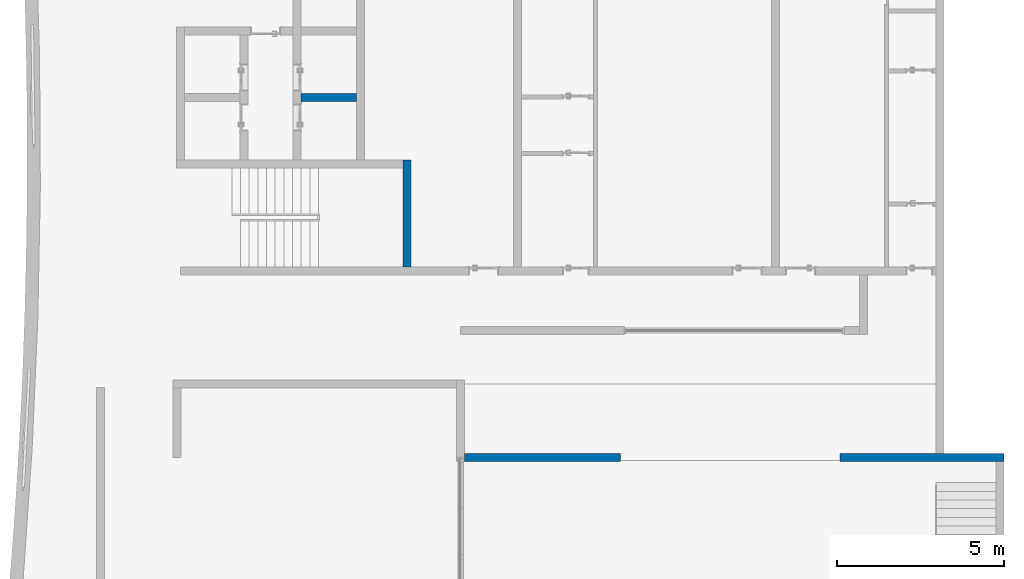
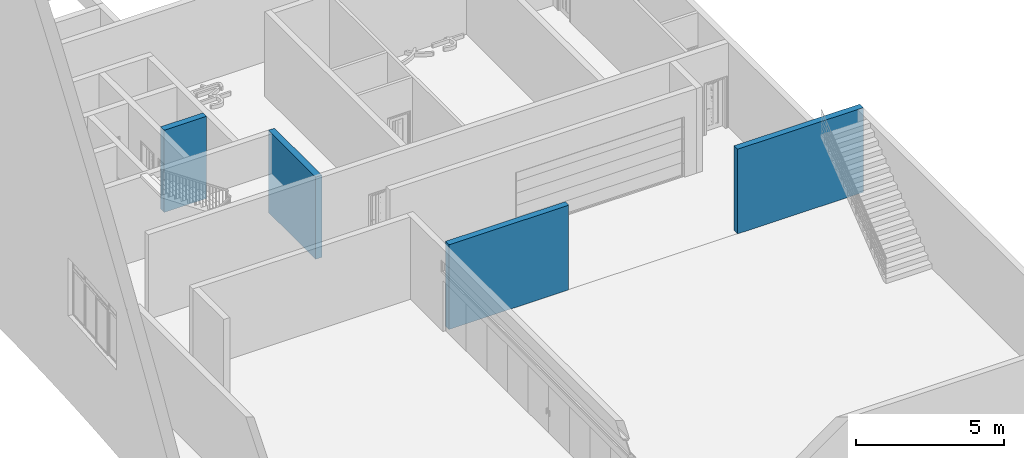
# One storey, part 7 of 24: 4 walls.
"""IFC2X3 building model written with IfcOpenShell, lengths in millimetres."""

from ifc_helpers import new_model, entity, si_unit, converted_unit, derived_unit, direction, frame, frame_2d, origin, place, context, subcontext, project, spatial, polyline, rectangle, extrude, clip, bounded_halfspace, material, layer, layer_set, layer_usage, type_object, element, save


model = new_model("IFC2X3")

# Units and contexts
model_context = context("Model", 3, precision=0.01, world=origin(), true_north=direction((6.12303176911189e-17, 1.0)))
body_context = subcontext(model_context, "Body", "Model", "MODEL_VIEW")
ifc_project = project(units=[si_unit("LENGTHUNIT", "METRE", prefix="MILLI"), si_unit("AREAUNIT", "SQUARE_METRE"), si_unit("VOLUMEUNIT", "CUBIC_METRE"), converted_unit("PLANEANGLEUNIT", "DEGREE", entity("IfcRatioMeasure", 0.0174532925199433), si_unit("PLANEANGLEUNIT", "RADIAN"), dimensions=[0, 0, 0, 0, 0, 0, 0]), si_unit("MASSUNIT", "GRAM", prefix="KILO"), derived_unit("MASSDENSITYUNIT", [(si_unit("MASSUNIT", "GRAM", prefix="KILO"), 1), (si_unit("LENGTHUNIT", "METRE"), -3)]), si_unit("TIMEUNIT", "SECOND"), si_unit("FREQUENCYUNIT", "HERTZ"), si_unit("THERMODYNAMICTEMPERATUREUNIT", "DEGREE_CELSIUS"), derived_unit("THERMALTRANSMITTANCEUNIT", [(si_unit("MASSUNIT", "GRAM", prefix="KILO"), 1), (si_unit("THERMODYNAMICTEMPERATUREUNIT", "KELVIN"), -1), (si_unit("TIMEUNIT", "SECOND"), -3)]), derived_unit("VOLUMETRICFLOWRATEUNIT", [(si_unit("LENGTHUNIT", "METRE"), 3), (si_unit("TIMEUNIT", "SECOND"), -1)]), si_unit("ELECTRICCURRENTUNIT", "AMPERE"), si_unit("ELECTRICVOLTAGEUNIT", "VOLT"), si_unit("POWERUNIT", "WATT"), si_unit("FORCEUNIT", "NEWTON", prefix="KILO"), si_unit("ILLUMINANCEUNIT", "LUX"), si_unit("LUMINOUSFLUXUNIT", "LUMEN"), si_unit("LUMINOUSINTENSITYUNIT", "CANDELA"), derived_unit("USERDEFINED", [(si_unit("MASSUNIT", "GRAM", prefix="KILO"), -1), (si_unit("LENGTHUNIT", "METRE"), -2), (si_unit("TIMEUNIT", "SECOND"), 3), (si_unit("LUMINOUSFLUXUNIT", "LUMEN"), 1)]), derived_unit("LINEARVELOCITYUNIT", [(si_unit("LENGTHUNIT", "METRE"), 1), (si_unit("TIMEUNIT", "SECOND"), -1)]), si_unit("PRESSUREUNIT", "PASCAL"), derived_unit("USERDEFINED", [(si_unit("LENGTHUNIT", "METRE"), -2), (si_unit("MASSUNIT", "GRAM", prefix="KILO"), 1), (si_unit("TIMEUNIT", "SECOND"), -2)])], contexts=[model_context])

# Site, building, storey
site_placement = place(None, origin())
site = spatial("IfcSite", under=ifc_project, at=site_placement, Name="表面", CompositionType="ELEMENT")
building_placement = place(site_placement, origin())
building = spatial("IfcBuilding", under=site, at=building_placement, CompositionType="ELEMENT")
storey_placement = place(building_placement, frame((0.0, 0.0, -3500.0)))
storey = spatial("IfcBuildingStorey", under=building, at=storey_placement, Name="-1F", CompositionType="ELEMENT", Elevation=-3500.0)

# Walls
ifc_material_1 = material(Name="白色涂料")
ifc_layer_1 = layer(ifc_material_1, 10.0)
ifc_material_2 = material(Name="默认墙")
ifc_layer_2 = layer(ifc_material_2, 220.0)
ifc_layer_3 = layer(ifc_material_1, 10.0)
ifc_layer_set = layer_set([ifc_layer_1, ifc_layer_2, ifc_layer_3], Name="基本墙:粉刷墙240")
ifc_layer_usage_1 = layer_usage(ifc_layer_set, "AXIS2", "NEGATIVE", 120.0)
wall_type = type_object("IfcWallType", Name="基本墙:粉刷墙240", PredefinedType="STANDARD", material=ifc_layer_set)
wall_1_placement = place(storey_placement, frame((7769.75008735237, -14307.8459129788, 0.0)))
element("IfcWallStandardCase", 1, at=wall_1_placement, inside=storey, type_object=wall_type, material=ifc_layer_usage_1, Name="基本墙:粉刷墙240", ObjectType="基本墙:粉刷墙240", context=body_context, shape_type="SweptSolid", body=[
    extrude(rectangle(XDim=4920.0, YDim=240.000000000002, at=frame_2d((2460.0, 6.3948846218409e-13), x_axis=(-1.0, 0.0))), origin(), (0.0, 0.0, 1.0), 3500.0),
])
ifc_layer_usage_2 = layer_usage(ifc_layer_set, "AXIS2", "NEGATIVE", 120.0)
wall_2_placement = place(storey_placement, frame((-3510.24991264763, -14307.8459129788, 0.0)))
element("IfcWallStandardCase", 2, at=wall_2_placement, inside=storey, type_object=wall_type, material=ifc_layer_usage_2, Name="基本墙:粉刷墙240", ObjectType="基本墙:粉刷墙240", context=body_context, shape_type="SweptSolid", body=[
    extrude(rectangle(XDim=4680.0, YDim=240.000000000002, at=frame_2d((2340.0, -3.97903932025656e-13), x_axis=(-1.0, 0.0))), origin(), (0.0, 0.0, 1.0), 3500.0),
])
ifc_layer_usage_3 = layer_usage(ifc_layer_set, "AXIS2", "NEGATIVE", 120.0)
wall_3_placement = place(storey_placement, frame((-5230.24991264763, -8587.84591297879, 0.0), z_axis=(0.0, 0.0, 1.0), x_axis=(0.0, 1.0, 0.0)))
element("IfcWallStandardCase", 3, at=wall_3_placement, inside=storey, type_object=wall_type, material=ifc_layer_usage_3, Name="基本墙:粉刷墙240", ObjectType="基本墙:粉刷墙240", context=body_context, shape_type="Clipping", body=[
    clip(extrude(rectangle(XDim=3200.0, YDim=240.0, at=frame_2d((1600.0, 0.0), x_axis=(-1.0, 0.0))), origin(), (0.0, 0.0, 1.0), 3400.0), bounded_halfspace(frame((3200.0, 0.0, 3400.0), z_axis=(0.0, 0.0, -1.0), x_axis=(-1.0, 0.0, 0.0)), True, frame((3200.0, 0.0, 3400.0)), polyline([(0.0, 0.0), (0.0, 120.0), (-240.0, 120.0), (-3200.0, 120.0), (-3200.0, 0.0), (0.0, 0.0)]))),
])
ifc_layer_usage_4 = layer_usage(ifc_layer_set, "AXIS2", "NEGATIVE", 120.0)
wall_4_placement = place(storey_placement, frame((-8410.24991264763, -3507.84591297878, 0.0)))
element("IfcWallStandardCase", 4, at=wall_4_placement, inside=storey, type_object=wall_type, material=ifc_layer_usage_4, Name="基本墙:粉刷墙240", ObjectType="基本墙:粉刷墙240", context=body_context, shape_type="Clipping", body=[
    clip(extrude(rectangle(XDim=1660.0, YDim=240.0, at=frame_2d((829.999999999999, 1.70530256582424e-13), x_axis=(-1.0, 0.0))), origin(), (0.0, 0.0, 1.0), 3399.99999999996), bounded_halfspace(frame((0.0, -120.0, 3400.0), z_axis=(0.0, 0.0, -1.0), x_axis=(0.0, -1.0, 0.0)), True, frame((0.0, -120.0, 3400.0)), polyline([(0.0, 0.0), (1660.0, 0.0), (1660.0, 240.0), (0.0, 240.0), (0.0, 0.0)]))),
])

save(model, "model.ifc")
